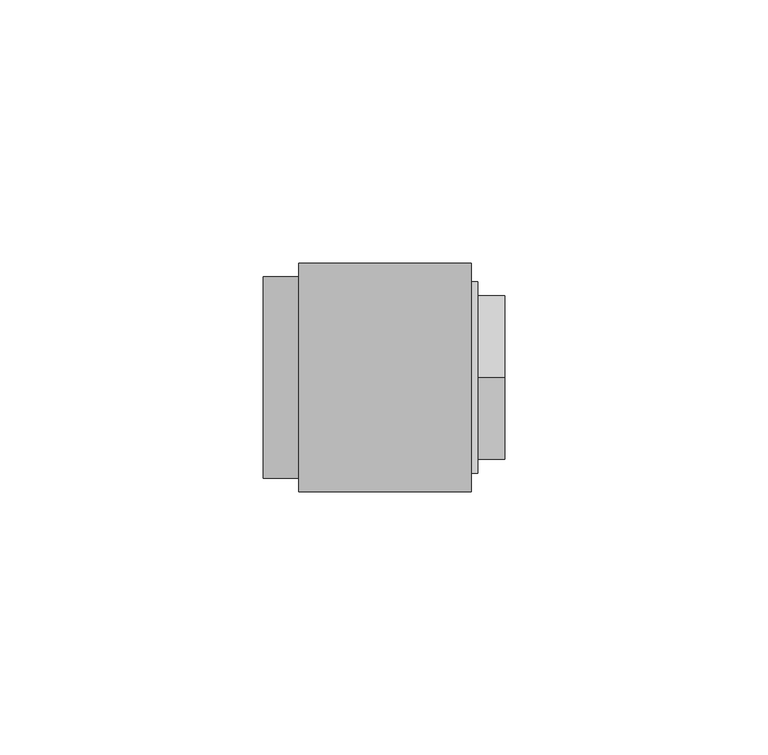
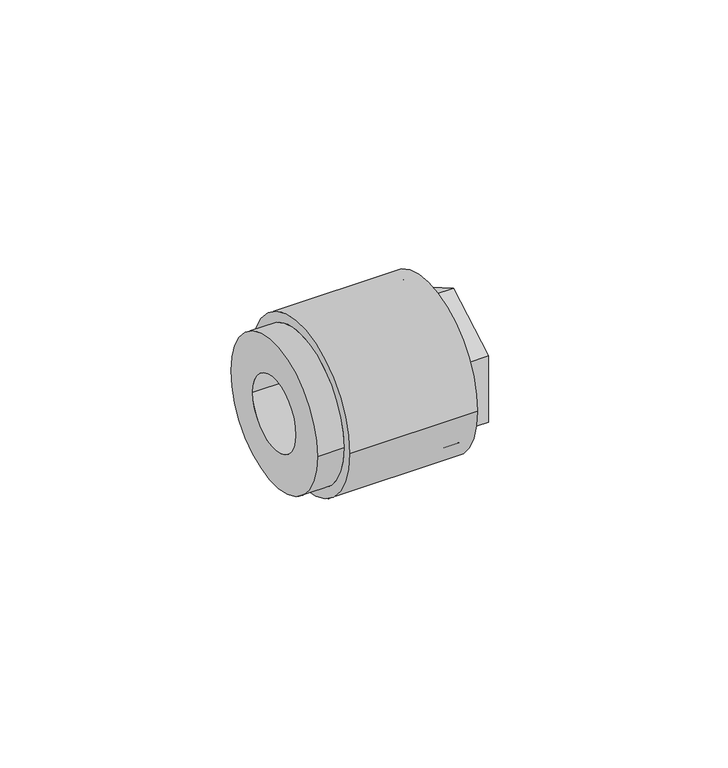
"""IFC4 building model written with IfcOpenShell, lengths in millimetres: pipe fitting geometry, Aquatherm - Fusion Outlet Transition Female : POTABLE BRASS - HEX."""

from ifc_helpers import new_model, si_unit, frame, origin, place, context, project, spatial, polyline, circle_curve, source, transform, mapped, element, save
from ifc_brep_helpers import plane_surface, cylinder_surface, revolved_surface, advanced_brep


def pipe_fitting_fae34f5b(model_context):
    return source(origin(), model_context, "Body", "AdvancedBrep", [
        advanced_brep(
        [(25.62225, 12.7, 0.0), (25.62225, -12.7, 0.0), (36.5363125, -12.7, 0.0), (36.5363125, 12.7, 0.0), (25.62225, 13.49375, 0.0), (25.62225, -13.49375, 0.0), (22.44725, 13.49375, 0.0), (22.44725, -13.49375, 0.0), (22.44725, 9.525, 0.0), (22.44725, -9.525, 0.0), (19.27225, 9.525, 0.0), (19.27225, -9.525, 0.0), (19.27225, 19.177, 0.0), (19.27225, -19.177, 0.0), (32.766, 19.177, 0.0), (32.766, -19.177, 0.0), (39.116, 13.49375, 0.0), (39.116, -13.49375, 0.0), (39.116, -15.494, 0.0), (39.116, -15.494, -8.9454651), (39.116, 0.0, -17.8909301), (39.116, 15.494, -8.9454651), (39.116, 15.494, 0.0), (39.116, 15.494, 8.9454651), (39.116, 0.0, 17.8909301), (39.116, -15.494, 8.9454651), (32.766, 18.161, 0.0), (32.766, -18.161, 0.0), (33.956625, 18.161, 0.0), (33.956625, -18.161, 0.0), (33.956625, 0.0, -17.8909301), (33.956625, -15.494, -8.9454651), (33.956625, -15.494, 8.9454651), (33.956625, 0.0, 17.8909301), (33.956625, 15.494, 8.9454651), (33.956625, 15.494, -8.9454651)],
        [
            (0, 1, circle_curve(frame((25.62225, 0.0, 0.0), z_axis=(-1.0, 0.0, 0.0), x_axis=(0.0, -1.0, 0.0)), 12.7)),
            (1, 2),
            (2, 3, circle_curve(frame((36.5363125, 0.0, 0.0), z_axis=(1.0, 0.0, 0.0), x_axis=(0.0, -1.0, 0.0)), 12.7)),
            (3, 0),
            (1, 0, circle_curve(frame((25.62225, 0.0, 0.0), z_axis=(-1.0, 0.0, 0.0), x_axis=(0.0, -1.0, 0.0)), 12.7)),
            (3, 2, circle_curve(frame((36.5363125, 0.0, 0.0), z_axis=(1.0, 0.0, 0.0), x_axis=(0.0, -1.0, 0.0)), 12.7)),
            (0, 4),
            (4, 5, circle_curve(frame((25.62225, 0.0, 0.0), z_axis=(-1.0, 0.0, 0.0), x_axis=(0.0, -1.0, 0.0)), 13.49375)),
            (5, 1),
            (5, 4, circle_curve(frame((25.62225, 0.0, 0.0), z_axis=(-1.0, 0.0, 0.0), x_axis=(0.0, -1.0, 0.0)), 13.49375)),
            (4, 6),
            (6, 7, circle_curve(frame((22.44725, 0.0, 0.0), z_axis=(-1.0, 0.0, 0.0), x_axis=(0.0, -1.0, 0.0)), 13.49375)),
            (7, 5),
            (7, 6, circle_curve(frame((22.44725, 0.0, 0.0), z_axis=(-1.0, 0.0, 0.0), x_axis=(0.0, -1.0, 0.0)), 13.49375)),
            (6, 8),
            (8, 9, circle_curve(frame((22.44725, 0.0, 0.0), z_axis=(-1.0, 0.0, 0.0), x_axis=(0.0, -1.0, 0.0)), 9.525)),
            (9, 7),
            (9, 8, circle_curve(frame((22.44725, 0.0, 0.0), z_axis=(-1.0, 0.0, 0.0), x_axis=(0.0, -1.0, 0.0)), 9.525)),
            (8, 10),
            (10, 11, circle_curve(frame((19.27225, 0.0, 0.0), z_axis=(-1.0, 0.0, 0.0), x_axis=(0.0, -1.0, 0.0)), 9.525)),
            (11, 9),
            (11, 10, circle_curve(frame((19.27225, 0.0, 0.0), z_axis=(-1.0, 0.0, 0.0), x_axis=(0.0, -1.0, 0.0)), 9.525)),
            (10, 12),
            (12, 13, circle_curve(frame((19.27225, 0.0, 0.0), z_axis=(-1.0, 0.0, 0.0), x_axis=(0.0, -1.0, 0.0)), 19.177)),
            (13, 11),
            (13, 12, circle_curve(frame((19.27225, 0.0, 0.0), z_axis=(-1.0, 0.0, 0.0), x_axis=(0.0, -1.0, 0.0)), 19.177)),
            (12, 14),
            (14, 15, circle_curve(frame((32.766, 0.0, 0.0), z_axis=(-1.0, 0.0, 0.0), x_axis=(0.0, -1.0, 0.0)), 19.177)),
            (15, 13),
            (15, 14, circle_curve(frame((32.766, 0.0, 0.0), z_axis=(-1.0, 0.0, 0.0), x_axis=(0.0, -1.0, 0.0)), 19.177)),
            (16, 17, circle_curve(frame((39.116, 0.0, 0.0), z_axis=(-1.0, 0.0, 0.0), x_axis=(0.0, -1.0, 0.0)), 13.49375)),
            (17, 18),
            (18, 19),
            (19, 20),
            (20, 21),
            (21, 22),
            (22, 16),
            (17, 16, circle_curve(frame((39.116, 0.0, 0.0), z_axis=(-1.0, 0.0, 0.0), x_axis=(0.0, -1.0, 0.0)), 13.49375)),
            (22, 23),
            (23, 24),
            (24, 25),
            (25, 18),
            (2, 17),
            (16, 3),
            (14, 26),
            (26, 27, circle_curve(frame((32.766, 0.0, 0.0), z_axis=(-1.0, 0.0, 0.0), x_axis=(0.0, -1.0, 0.0)), 18.161)),
            (27, 15),
            (27, 26, circle_curve(frame((32.766, 0.0, 0.0), z_axis=(-1.0, 0.0, 0.0), x_axis=(0.0, -1.0, 0.0)), 18.161)),
            (26, 28),
            (28, 29, circle_curve(frame((33.956625, 0.0, 0.0), z_axis=(-1.0, 0.0, 0.0), x_axis=(0.0, -1.0, 0.0)), 18.161)),
            (29, 27),
            (29, 28, circle_curve(frame((33.956625, 0.0, 0.0), z_axis=(-1.0, 0.0, 0.0), x_axis=(0.0, -1.0, 0.0)), 18.161)),
            (30, 31),
            (31, 32),
            (32, 33),
            (33, 34),
            (34, 35),
            (35, 30),
            (35, 21),
            (20, 30),
            (34, 23),
            (33, 24),
            (32, 25),
            (31, 19),
        ],
        [
            revolved_surface(polyline([(36.5363125, -12.7, 0.0), (25.62225, -12.7, 0.0)]), (40.9492251, 0.0, 0.0), (1.0, 0.0, 0.0)),
            plane_surface(frame((25.62225, 0.0, 0.0), z_axis=(-1.0, 0.0, 0.0), x_axis=(0.0, -1.0, 0.0))),
            revolved_surface(polyline([(25.62225, -13.49375, 0.0), (22.44725, -13.49375, 0.0)]), (40.9492251, 0.0, 0.0), (1.0, 0.0, 0.0)),
            plane_surface(frame((22.44725, 0.0, 0.0), z_axis=(1.0, 0.0, 0.0), x_axis=(0.0, -1.0, 0.0))),
            revolved_surface(polyline([(22.44725, -9.525, 0.0), (19.27225, -9.525, 0.0)]), (40.9492251, 0.0, 0.0), (1.0, 0.0, 0.0)),
            plane_surface(frame((19.27225, 0.0, 0.0), z_axis=(-1.0, 0.0, 0.0), x_axis=(0.0, -1.0, 0.0))),
            cylinder_surface(frame((40.9492251, 0.0, 0.0), z_axis=(1.0, 0.0, 0.0), x_axis=(0.0, -1.0, 0.0)), 19.177),
            plane_surface(frame((39.116, 0.0, 0.0), z_axis=(1.0, 0.0, 0.0), x_axis=(0.0, -1.0, 0.0))),
            revolved_surface(polyline([(39.116, -13.49375, 0.0), (36.5363125, -12.7, 0.0)]), (40.9492251, 0.0, 0.0), (1.0, 0.0, 0.0)),
            plane_surface(frame((32.766, 0.0, 0.0), z_axis=(1.0, 0.0, 0.0), x_axis=(0.0, -1.0, 0.0))),
            cylinder_surface(frame((40.9492251, 0.0, 0.0), z_axis=(1.0, 0.0, 0.0), x_axis=(0.0, -1.0, 0.0)), 18.161),
            plane_surface(frame((33.956625, 15.494, -8.9454651), z_axis=(1.0000000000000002, 0.0, 0.0), x_axis=(0.0, 0.8660254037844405, 0.49999999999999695))),
            plane_surface(frame((33.956625, 0.0, -17.8909301), z_axis=(0.0, 0.49999999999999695, -0.8660254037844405), x_axis=(1.0, 0.0, 0.0))),
            plane_surface(frame((33.956625, 15.494, -8.9454651), z_axis=(0.0, 1.0, 0.0), x_axis=(1.0, 0.0, 0.0))),
            plane_surface(frame((33.956625, 15.494, 8.9454651), z_axis=(0.0, 0.5000000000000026, 0.8660254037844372), x_axis=(1.0, 0.0, 0.0))),
            plane_surface(frame((33.956625, 0.0, 17.8909301), z_axis=(0.0, -0.499999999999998, 0.8660254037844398), x_axis=(1.0, 0.0, 0.0))),
            plane_surface(frame((33.956625, -15.494, 8.9454651), z_axis=(0.0, -1.0, 0.0), x_axis=(1.0, 0.0, 0.0))),
            plane_surface(frame((33.956625, -15.494, -8.9454651), z_axis=(0.0, -0.5000000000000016, -0.8660254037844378), x_axis=(1.0, 0.0, 0.0))),
        ],
        [
            (0, [[1, 2, 3, 4]]),
            (0, [[-2, 5, -4, 6]]),
            (1, [[-1, 7, 8, 9]]),
            (1, [[-5, -9, 10, -7]]),
            (2, [[-8, 11, 12, 13]]),
            (2, [[-10, -13, 14, -11]]),
            (3, [[-12, 15, 16, 17]]),
            (3, [[-14, -17, 18, -15]]),
            (4, [[-16, 19, 20, 21]]),
            (4, [[-18, -21, 22, -19]]),
            (5, [[-20, 23, 24, 25]]),
            (5, [[-22, -25, 26, -23]]),
            (6, [[-24, 27, 28, 29]]),
            (6, [[-26, -29, 30, -27]]),
            (7, [[31, 32, 33, 34, 35, 36, 37]]),
            (7, [[38, -37, 39, 40, 41, 42, -32]]),
            (8, [[-3, 43, -31, 44]]),
            (8, [[-6, -44, -38, -43]]),
            (9, [[-28, 45, 46, 47]]),
            (9, [[-30, -47, 48, -45]]),
            (10, [[-46, 49, 50, 51]]),
            (10, [[-48, -51, 52, -49]]),
            (11, [[-50, -52], [53, 54, 55, 56, 57, 58]]),
            (12, [[-58, 59, -35, 60]]),
            (13, [[-57, 61, -39, -36, -59]]),
            (14, [[-56, 62, -40, -61]]),
            (15, [[-55, 63, -41, -62]]),
            (16, [[-54, 64, -33, -42, -63]]),
            (17, [[-53, -60, -34, -64]]),
        ],
    ),
        advanced_brep(
        [(-6.7962162, 19.177, 0.0), (-6.7962162, -19.177, 0.0), (-6.7962162, 9.525, 0.0), (-6.7962162, -9.525, 0.0), (19.27225, 19.177, 0.0), (19.27225, -19.177, 0.0), (19.27225, 9.525, 0.0), (19.27225, -9.525, 0.0), (0.0, 19.177, 0.0), (0.0, -19.177, 0.0), (32.766, 21.717, 0.0), (32.766, -21.717, 0.0), (32.766, 19.177, 0.0), (32.766, -19.177, 0.0), (0.0, 21.717, 0.0), (0.0, -21.717, 0.0)],
        [
            (0, 1, circle_curve(frame((-6.7962162, 0.0, 0.0), z_axis=(-1.0, 0.0, 0.0), x_axis=(0.0, -1.0, 0.0)), 19.177)),
            (1, 0, circle_curve(frame((-6.7962162, 0.0, 0.0), z_axis=(-1.0, 0.0, 0.0), x_axis=(0.0, -1.0, 0.0)), 19.177)),
            (2, 3, circle_curve(frame((-6.7962162, 0.0, 0.0), z_axis=(1.0, 0.0, 0.0), x_axis=(0.0, -1.0, 0.0)), 9.525)),
            (3, 2, circle_curve(frame((-6.7962162, 0.0, 0.0), z_axis=(1.0, 0.0, 0.0), x_axis=(0.0, -1.0, 0.0)), 9.525)),
            (4, 5, circle_curve(frame((19.27225, 0.0, 0.0), z_axis=(1.0, 0.0, 0.0), x_axis=(0.0, -1.0, 0.0)), 19.177)),
            (5, 4, circle_curve(frame((19.27225, 0.0, 0.0), z_axis=(1.0, 0.0, 0.0), x_axis=(0.0, -1.0, 0.0)), 19.177)),
            (6, 7, circle_curve(frame((19.27225, 0.0, 0.0), z_axis=(-1.0, 0.0, 0.0), x_axis=(0.0, -1.0, 0.0)), 9.525)),
            (7, 6, circle_curve(frame((19.27225, 0.0, 0.0), z_axis=(-1.0, 0.0, 0.0), x_axis=(0.0, -1.0, 0.0)), 9.525)),
            (2, 6),
            (7, 3),
            (0, 8),
            (8, 9, circle_curve(frame((0.0, 0.0, 0.0), z_axis=(-1.0, 0.0, 0.0), x_axis=(0.0, -1.0, 0.0)), 19.177)),
            (9, 1),
            (9, 8, circle_curve(frame((0.0, 0.0, 0.0), z_axis=(-1.0, 0.0, 0.0), x_axis=(0.0, -1.0, 0.0)), 19.177)),
            (10, 11, circle_curve(frame((32.766, 0.0, 0.0), z_axis=(1.0, 0.0, 0.0), x_axis=(0.0, -1.0, 0.0)), 21.717)),
            (11, 10, circle_curve(frame((32.766, 0.0, 0.0), z_axis=(1.0, 0.0, 0.0), x_axis=(0.0, -1.0, 0.0)), 21.717)),
            (12, 13, circle_curve(frame((32.766, 0.0, 0.0), z_axis=(-1.0, 0.0, 0.0), x_axis=(0.0, -1.0, 0.0)), 19.177)),
            (13, 12, circle_curve(frame((32.766, 0.0, 0.0), z_axis=(-1.0, 0.0, 0.0), x_axis=(0.0, -1.0, 0.0)), 19.177)),
            (14, 15, circle_curve(frame((0.0, 0.0, 0.0), z_axis=(-1.0, 0.0, 0.0), x_axis=(0.0, -1.0, 0.0)), 21.717)),
            (15, 14, circle_curve(frame((0.0, 0.0, 0.0), z_axis=(-1.0, 0.0, 0.0), x_axis=(0.0, -1.0, 0.0)), 21.717)),
            (13, 5),
            (4, 12),
            (11, 15),
            (14, 10),
        ],
        [
            plane_surface(frame((-6.7962162, -9.525, 0.0), z_axis=(-1.0, 0.0, 0.0), x_axis=(0.0, 0.0, -1.0))),
            plane_surface(frame((19.27225, -9.525, 0.0), z_axis=(1.0, 0.0, 0.0), x_axis=(0.0, 0.0, 1.0))),
            revolved_surface(polyline([(19.27225, -9.525, 0.0), (-6.7962162, -9.525, 0.0)]), (19.27225, 0.0, 0.0), (1.0, 0.0, 0.0)),
            cylinder_surface(frame((0.0, 0.0, 0.0), z_axis=(-1.0, 0.0, 0.0), x_axis=(0.0, -1.0, 0.0)), 19.177),
            plane_surface(frame((32.766, -19.177, 0.0), z_axis=(1.0, 0.0, 0.0), x_axis=(0.0, 0.0, 1.0))),
            plane_surface(frame((0.0, -19.177, 0.0), z_axis=(-1.0, 0.0, 0.0), x_axis=(0.0, 0.0, -1.0))),
            revolved_surface(polyline([(32.766, -19.177, 0.0), (19.27225, -19.177, 0.0)]), (32.766, 0.0, 0.0), (1.0, 0.0, 0.0)),
            cylinder_surface(frame((0.0, 0.0, 0.0), z_axis=(-1.0, 0.0, 0.0), x_axis=(0.0, -1.0, 0.0)), 21.717),
        ],
        [
            (0, [[1, 2], [3, 4]]),
            (1, [[5, 6], [7, 8]]),
            (2, [[-3, 9, -8, 10]]),
            (2, [[-4, -10, -7, -9]]),
            (3, [[-1, 11, 12, 13]]),
            (3, [[-2, -13, 14, -11]]),
            (4, [[15, 16], [17, 18]]),
            (5, [[19, 20], [-12, -14]]),
            (6, [[-18, 21, -5, 22]]),
            (6, [[-17, -22, -6, -21]]),
            (7, [[-16, 23, -19, 24]]),
            (7, [[-15, -24, -20, -23]]),
        ],
    ),
    ])


if __name__ == "__main__":
    model = new_model("IFC4")
    model_context = context("Model", 3, world=origin())
    ifc_project = project(units=[si_unit("LENGTHUNIT", "METRE", prefix="MILLI")], contexts=[model_context])
    site = spatial("IfcSite", under=ifc_project)
    building = spatial("IfcBuilding", under=site)
    placement = place(None, origin())
    pipe_fitting_shape = pipe_fitting_fae34f5b(model_context)
    element("IfcPipeFitting", 1, ObjectType="Aquatherm - Fusion Outlet Transition Female : POTABLE BRASS - HEX", at=placement, inside=building, context=model_context, shape_type="MappedRepresentation", body=[
        mapped(pipe_fitting_shape, transform((0.0, 0.0, 0.0), x_axis=(1.0, 0.0, 0.0), y_axis=(0.0, 1.0, 0.0), z_axis=(0.0, 0.0, 1.0))),
    ])
    save(model, "model.ifc")
